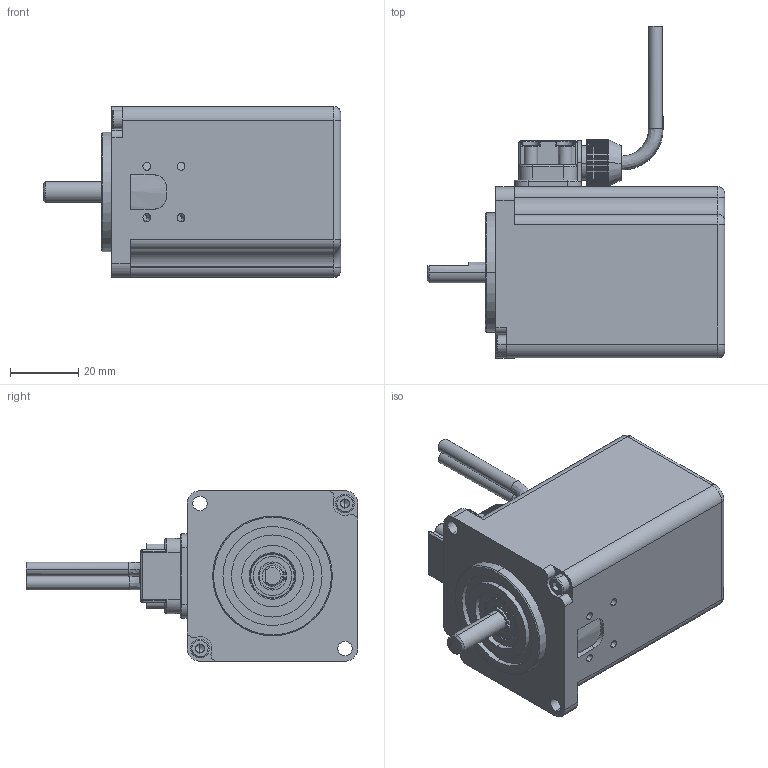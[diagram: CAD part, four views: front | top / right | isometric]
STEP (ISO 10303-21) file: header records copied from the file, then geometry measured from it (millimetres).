
FILE_DESCRIPTION (( 'STEP AP203' ), '1' );
FILE_NAME ('NCA30068-T.STEP', '2018-07-17T03:31:03', ( 'xt256.com' ), ( 'xt256.com' ), 'SwSTEP 2.0', 'SolidWorks 2016', '' );
FILE_SCHEMA (( 'CONFIG_CONTROL_DESIGN' ));
Length unit declared in the file: millimetre
Products named in the file (2): NCA30068-T; NCA30068-T-prt19
Assembly tree (1 placements, depth 2):
  NCA30068-T
    NCA30068-T-prt19
Bounding box: 87 x 97.09 x 50 mm (x, y, z)
Volume: 165265.6 mm3; surface area: 25711.2 mm2
Topology: 6 solids, 6 shells, 896 faces, 2167 edges, 1309 vertices
Faces by surface type: cylinder 460, bspline 243, plane 141, torus 41, cone 11
Entity records: 31714 total; most frequent: CARTESIAN_POINT 11935, ORIENTED_EDGE 4320, DIRECTION 3901, EDGE_CURVE 2160, AXIS2_PLACEMENT_3D 1484, VERTEX_POINT 1309, EDGE_LOOP 953, VECTOR 933
